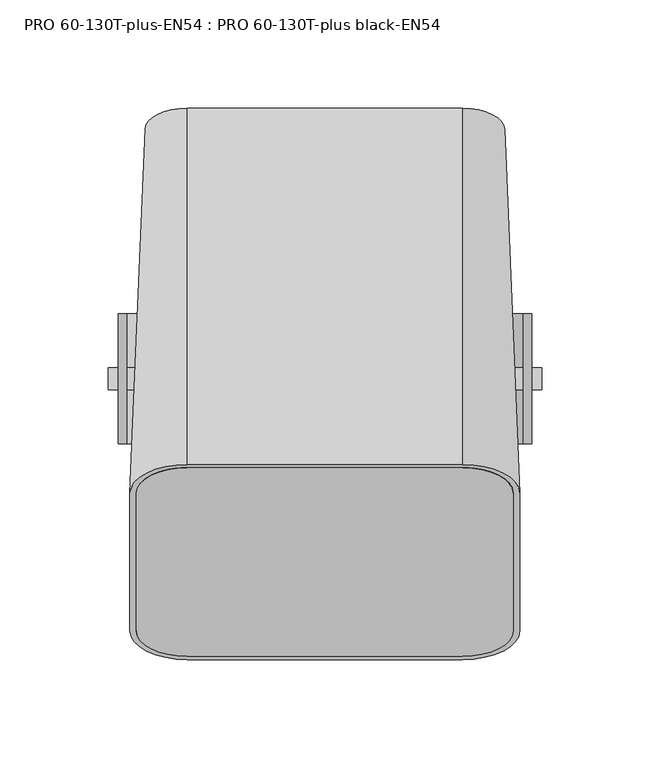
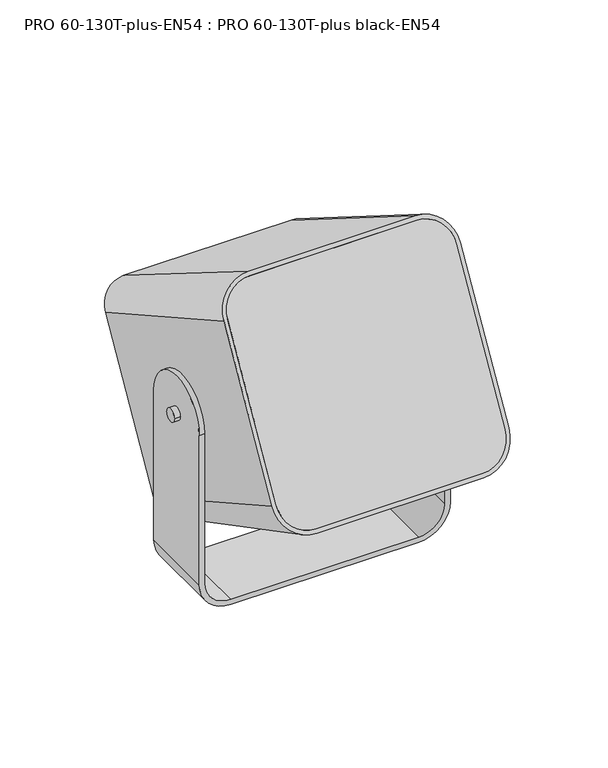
"""IFC4 building model written with IfcOpenShell, lengths in millimetres: proxy geometry, PRO 60-130T-plus-EN54 : PRO 60-130T-plus black-EN54."""

from ifc_helpers import new_model, si_unit, point, frame, frame_2d, origin, place, context, project, spatial, polyline, circle_curve, ellipse_curve, trimmed, segment, composite_curve, outline, extrude, source, transform, mapped, element, save
from ifc_brep_helpers import plane_surface, cylinder_surface, revolved_surface, advanced_brep


def pro_60_130t_plus_en54_pro_60_130t_plus_black_en54_bc86a0cb(model_context):
    return source(origin(), model_context, "Body", "SolidModel", [
        advanced_brep(
        [(-6.5506555, 64.9756664, 56.0416911), (-6.5506555, 61.6619579, 50.3021797), (-11.236947, 59.3188122, 46.2437322), (-17.864364, 59.3188122, 46.2437322), (-22.5506555, 61.6619579, 50.3021797), (-22.5506555, 64.9756664, 56.0416911), (-17.864364, 67.3188122, 60.1001386), (-11.236947, 67.3188122, 60.1001386), (-14.5506555, 66.3188122, 58.3680878), (-14.5506555, 60.3188122, 47.975783), (-6.5506555, 61.5115648, 58.0416911), (-11.236947, 63.8547106, 62.1001386), (-17.864364, 63.8547106, 62.1001386), (-22.5506555, 61.5115648, 58.0416911), (-22.5506555, 58.1978563, 52.3021797), (-17.864364, 55.8547106, 48.2437322), (-11.236947, 55.8547106, 48.2437322), (-6.5506555, 58.1978563, 52.3021797), (-14.5506555, 62.050863, 46.975783), (-14.5506555, 68.050863, 57.3680878), (-6.5506555, 74.1555357, 50.7416911), (-6.5506555, 70.8418272, 45.0021797), (-11.236947, 68.4986814, 40.9437322), (-17.864364, 68.4986814, 40.9437322), (-22.5506555, 70.8418272, 45.0021797), (-22.5506555, 74.1555357, 50.7416911), (-17.864364, 76.4986814, 54.8001386), (-11.236947, 76.4986814, 54.8001386), (-14.5506555, 75.9986814, 53.9341132), (-14.5506555, 68.9986814, 41.8097576), (-6.5506555, 66.7077172, 55.0416911), (-11.236947, 69.050863, 59.1001386), (-17.864364, 69.050863, 59.1001386), (-22.5506555, 66.7077172, 55.0416911), (-22.5506555, 63.3940087, 49.3021797), (-17.864364, 61.050863, 45.2437322), (-11.236947, 61.050863, 45.2437322), (-6.5506555, 63.3940087, 49.3021797), (-14.5506555, 70.2977196, 41.0597576), (-14.5506555, 77.2977196, 53.1841132), (-14.5506555, 78.7618212, 47.7200116), (-14.5506555, 75.7618212, 42.5238592), (-14.5506555, 77.2618212, 45.1219354)],
        [
            (0, 1),
            (1, 2),
            (2, 3),
            (3, 4),
            (4, 5),
            (5, 6),
            (6, 7),
            (7, 0),
            (8, 9, circle_curve(frame((-14.5506555, 63.3188122, 53.1719354), z_axis=(0.0, -0.8660254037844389, 0.4999999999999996), x_axis=(0.0, 0.4999999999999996, 0.8660254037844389)), 6.0)),
            (9, 8, circle_curve(frame((-14.5506555, 63.3188122, 53.1719354), z_axis=(0.0, -0.8660254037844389, 0.4999999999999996), x_axis=(0.0, 0.4999999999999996, 0.8660254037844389)), 6.0)),
            (10, 11),
            (11, 12),
            (12, 13),
            (13, 14),
            (14, 15),
            (15, 16),
            (16, 17),
            (17, 10),
            (18, 9),
            (8, 19),
            (19, 18, circle_curve(frame((-14.5506555, 65.050863, 52.1719354), z_axis=(0.0, -0.8660254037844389, 0.4999999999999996), x_axis=(0.0, 0.4999999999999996, 0.8660254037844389)), 6.0)),
            (18, 19, circle_curve(frame((-14.5506555, 65.050863, 52.1719354), z_axis=(0.0, -0.8660254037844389, 0.4999999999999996), x_axis=(0.0, 0.4999999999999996, 0.8660254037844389)), 6.0)),
            (20, 21),
            (21, 22),
            (22, 23),
            (23, 24),
            (24, 25),
            (25, 26),
            (26, 27),
            (27, 20),
            (28, 29, circle_curve(frame((-14.5506555, 72.4986814, 47.8719354), z_axis=(0.0, -0.8660254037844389, 0.4999999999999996), x_axis=(0.0, 0.4999999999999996, 0.8660254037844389)), 7.0)),
            (29, 28, circle_curve(frame((-14.5506555, 72.4986814, 47.8719354), z_axis=(0.0, -0.8660254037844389, 0.4999999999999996), x_axis=(0.0, 0.4999999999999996, 0.8660254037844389)), 7.0)),
            (30, 31),
            (31, 32),
            (32, 33),
            (33, 34),
            (34, 35),
            (35, 36),
            (36, 37),
            (37, 30),
            (38, 29),
            (28, 39),
            (39, 38, circle_curve(frame((-14.5506555, 73.7977196, 47.1219354), z_axis=(0.0, -0.8660254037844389, 0.4999999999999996), x_axis=(0.0, 0.4999999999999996, 0.8660254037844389)), 7.0)),
            (38, 39, circle_curve(frame((-14.5506555, 73.7977196, 47.1219354), z_axis=(0.0, -0.8660254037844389, 0.4999999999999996), x_axis=(0.0, 0.4999999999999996, 0.8660254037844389)), 7.0)),
            (40, 41, circle_curve(frame((-14.5506555, 77.2618212, 45.1219354), z_axis=(0.0, 0.8660254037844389, -0.4999999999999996), x_axis=(0.0, -0.4999999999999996, -0.8660254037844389)), 3.0)),
            (41, 42),
            (42, 40),
            (41, 40, circle_curve(frame((-14.5506555, 77.2618212, 45.1219354), z_axis=(0.0, 0.8660254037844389, -0.4999999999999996), x_axis=(0.0, -0.4999999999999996, -0.8660254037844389)), 3.0)),
            (40, 39, circle_curve(frame((-14.5506555, 75.2977196, 49.7200116), z_axis=(1.0, 0.0, 0.0), x_axis=(0.0, -0.4999999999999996, -0.8660254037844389)), 4.0)),
            (38, 41, circle_curve(frame((-14.5506555, 72.2977196, 44.5238592), z_axis=(1.0, 0.0, 0.0), x_axis=(0.0, 0.4999999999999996, 0.8660254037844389)), 4.0)),
            (20, 30),
            (37, 21),
            (36, 22),
            (35, 23),
            (34, 24),
            (33, 25),
            (32, 26),
            (31, 27),
            (0, 10),
            (17, 1),
            (16, 2),
            (15, 3),
            (14, 4),
            (13, 5),
            (12, 6),
            (11, 7),
        ],
        [
            plane_surface(frame((-6.5506555, 64.9756664, 56.0416911), z_axis=(0.0, 0.8660254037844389, -0.4999999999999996), x_axis=(0.0, -0.4999999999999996, -0.8660254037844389))),
            plane_surface(frame((-6.5506555, 61.5115648, 58.0416911), z_axis=(0.0, -0.8660254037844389, 0.4999999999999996), x_axis=(0.0, 0.4999999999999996, 0.8660254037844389))),
            cylinder_surface(frame((-14.5506555, 59.8547106, 55.1719354), z_axis=(0.0, 0.8660254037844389, -0.4999999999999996), x_axis=(0.0, 0.4999999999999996, 0.8660254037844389)), 6.0),
            plane_surface(frame((-6.5506555, 74.1555357, 50.7416911), z_axis=(0.0, 0.8660254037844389, -0.4999999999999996), x_axis=(0.0, -0.4999999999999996, -0.8660254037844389))),
            plane_surface(frame((-6.5506555, 66.7077172, 55.0416911), z_axis=(0.0, -0.8660254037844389, 0.4999999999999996), x_axis=(0.0, 0.4999999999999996, 0.8660254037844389))),
            cylinder_surface(frame((-14.5506555, 65.050863, 52.1719354), z_axis=(0.0, 0.8660254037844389, -0.4999999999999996), x_axis=(0.0, 0.4999999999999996, 0.8660254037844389)), 7.0),
            plane_surface(frame((-14.5506555, 77.2618212, 45.1219354), z_axis=(0.0, 0.8660254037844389, -0.4999999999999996), x_axis=(0.0, -0.4999999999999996, -0.8660254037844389))),
            revolved_surface(trimmed(ellipse_curve(frame((-14.5506555, 72.2977196, 44.5238592), z_axis=(-1.0, 0.0, 0.0), x_axis=(0.0, 0.4999999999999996, 0.8660254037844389)), 4.0, 4.0), [point((-14.5506555, 75.7618212, 42.5238592))], [point((-14.5506555, 70.2977196, 41.0597576))], True, "CARTESIAN"), (-14.5506555, 1970.1465392, -1047.7355661), (0.0, -0.8660254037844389, 0.4999999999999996)),
            plane_surface(frame((-6.5506555, 74.1555357, 50.7416911), z_axis=(1.0, 0.0, 0.0), x_axis=(0.0, -0.8660254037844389, 0.4999999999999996))),
            plane_surface(frame((-6.5506555, 70.8418272, 45.0021797), z_axis=(0.7071067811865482, -0.3535533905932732, -0.6123724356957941), x_axis=(0.0, -0.8660254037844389, 0.4999999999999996))),
            plane_surface(frame((-11.236947, 68.4986814, 40.9437322), z_axis=(0.0, -0.4999999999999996, -0.8660254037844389), x_axis=(0.0, -0.8660254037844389, 0.4999999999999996))),
            plane_surface(frame((-17.864364, 68.4986814, 40.9437322), z_axis=(-0.7071067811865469, -0.35355339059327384, -0.6123724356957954), x_axis=(0.0, -0.8660254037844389, 0.4999999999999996))),
            plane_surface(frame((-22.5506555, 70.8418272, 45.0021797), z_axis=(-1.0, 0.0, 0.0), x_axis=(0.0, -0.8660254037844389, 0.4999999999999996))),
            plane_surface(frame((-22.5506555, 74.1555357, 50.7416911), z_axis=(-0.7071067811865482, 0.3535533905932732, 0.6123724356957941), x_axis=(0.0, -0.8660254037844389, 0.4999999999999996))),
            plane_surface(frame((-17.864364, 76.4986814, 54.8001386), z_axis=(0.0, 0.4999999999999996, 0.8660254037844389), x_axis=(0.0, -0.8660254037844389, 0.4999999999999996))),
            plane_surface(frame((-11.236947, 76.4986814, 54.8001386), z_axis=(0.7071067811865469, 0.35355339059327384, 0.6123724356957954), x_axis=(0.0, -0.8660254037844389, 0.4999999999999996))),
            plane_surface(frame((-6.5506555, 64.9756664, 56.0416911), z_axis=(1.0, 0.0, 0.0), x_axis=(0.0, -0.8660254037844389, 0.4999999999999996))),
            plane_surface(frame((-6.5506555, 61.6619579, 50.3021797), z_axis=(0.7071067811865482, -0.35355339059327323, -0.6123724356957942), x_axis=(0.0, -0.8660254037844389, 0.4999999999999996))),
            plane_surface(frame((-11.236947, 59.3188122, 46.2437322), z_axis=(0.0, -0.4999999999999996, -0.8660254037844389), x_axis=(0.0, -0.8660254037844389, 0.4999999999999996))),
            plane_surface(frame((-17.864364, 59.3188122, 46.2437322), z_axis=(-0.7071067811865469, -0.3535533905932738, -0.6123724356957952), x_axis=(0.0, -0.8660254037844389, 0.4999999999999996))),
            plane_surface(frame((-22.5506555, 61.6619579, 50.3021797), z_axis=(-1.0, 0.0, 0.0), x_axis=(0.0, -0.8660254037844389, 0.4999999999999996))),
            plane_surface(frame((-22.5506555, 64.9756664, 56.0416911), z_axis=(-0.7071067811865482, 0.3535533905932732, 0.6123724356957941), x_axis=(0.0, -0.8660254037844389, 0.4999999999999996))),
            plane_surface(frame((-17.864364, 67.3188122, 60.1001386), z_axis=(0.0, 0.4999999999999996, 0.8660254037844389), x_axis=(0.0, -0.8660254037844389, 0.4999999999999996))),
            plane_surface(frame((-11.236947, 67.3188122, 60.1001386), z_axis=(0.707106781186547, 0.3535533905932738, 0.6123724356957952), x_axis=(0.0, -0.8660254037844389, 0.4999999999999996))),
        ],
        [
            (0, [[1, 2, 3, 4, 5, 6, 7, 8], [9, 10]]),
            (1, [[11, 12, 13, 14, 15, 16, 17, 18]]),
            (2, [[19, -9, 20, 21]]),
            (2, [[-19, 22, -20, -10]]),
            (3, [[23, 24, 25, 26, 27, 28, 29, 30], [31, 32]]),
            (4, [[33, 34, 35, 36, 37, 38, 39, 40], [-21, -22]]),
            (5, [[41, -31, 42, 43]]),
            (5, [[-41, 44, -42, -32]]),
            (6, [[45, 46, 47]]),
            (6, [[-46, 48, -47]]),
            (7, [[-45, 49, -44, 50]]),
            (7, [[-48, -50, -43, -49]]),
            (8, [[-23, 51, -40, 52]]),
            (9, [[-24, -52, -39, 53]]),
            (10, [[-25, -53, -38, 54]]),
            (11, [[-26, -54, -37, 55]]),
            (12, [[-27, -55, -36, 56]]),
            (13, [[-28, -56, -35, 57]]),
            (14, [[-29, -57, -34, 58]]),
            (15, [[-30, -58, -33, -51]]),
            (16, [[-1, 59, -18, 60]]),
            (17, [[-2, -60, -17, 61]]),
            (18, [[-3, -61, -16, 62]]),
            (19, [[-4, -62, -15, 63]]),
            (20, [[-5, -63, -14, 64]]),
            (21, [[-6, -64, -13, 65]]),
            (22, [[-7, -65, -12, 66]]),
            (23, [[-8, -66, -11, -59]]),
        ],
    ),
        extrude(outline(composite_curve([segment(trimmed(circle_curve(frame_2d((0.0, -23.5)), 23.5), [point((0.0, 0.0))], [point((23.5, -23.5))], False, "CARTESIAN"), True, "CONTINUOUS"), segment(polyline([(23.5, -23.5), (23.5, -150.5)]), True, "CONTINUOUS"), segment(trimmed(circle_curve(frame_2d((0.0, -150.5)), 23.5), [point((23.5, -150.5))], [point((0.0, -174.0))], False, "CARTESIAN"), True, "CONTINUOUS"), segment(polyline([(0.0, -174.0), (-127.0, -174.0)]), True, "CONTINUOUS"), segment(trimmed(circle_curve(frame_2d((-127.0, -150.5)), 23.5), [point((-127.0, -174.0))], [point((-150.5, -150.5))], False, "CARTESIAN"), True, "CONTINUOUS"), segment(polyline([(-150.5, -150.5), (-150.5, -23.5)]), True, "CONTINUOUS"), segment(trimmed(circle_curve(frame_2d((-127.0, -23.5)), 23.5), [point((-150.5, -23.5))], [point((-127.0, 0.0))], False, "CARTESIAN"), True, "CONTINUOUS"), segment(polyline([(-127.0, 0.0), (0.0, 0.0)]), True, "CONTINUOUS")], self_intersect=False)), frame((87.0, -115.5379578, 137.3824259), z_axis=(0.0, -0.8660254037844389, 0.4999999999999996), x_axis=(0.0, -0.4999999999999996, -0.8660254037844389)), (0.0, 0.0, 1.0), 1.0),
        extrude(outline(composite_curve([segment(trimmed(circle_curve(frame_2d((0.0, -23.5)), 23.5), [point((0.0, 0.0))], [point((23.5, -23.5))], False, "CARTESIAN"), True, "CONTINUOUS"), segment(polyline([(23.5, -23.5), (23.5, -150.5)]), True, "CONTINUOUS"), segment(trimmed(circle_curve(frame_2d((0.0, -150.5)), 23.5), [point((23.5, -150.5))], [point((0.0, -174.0))], False, "CARTESIAN"), True, "CONTINUOUS"), segment(polyline([(0.0, -174.0), (-127.0, -174.0)]), True, "CONTINUOUS"), segment(trimmed(circle_curve(frame_2d((-127.0, -150.5)), 23.5), [point((-127.0, -174.0))], [point((-150.5, -150.5))], False, "CARTESIAN"), True, "CONTINUOUS"), segment(polyline([(-150.5, -150.5), (-150.5, -23.5)]), True, "CONTINUOUS"), segment(trimmed(circle_curve(frame_2d((-127.0, -23.5)), 23.5), [point((-150.5, -23.5))], [point((-127.0, 0.0))], False, "CARTESIAN"), True, "CONTINUOUS"), segment(polyline([(-127.0, 0.0), (0.0, 0.0)]), True, "CONTINUOUS")], self_intersect=False)), frame((87.0, -112.9398816, 135.8824259), z_axis=(0.0, -0.8660254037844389, 0.4999999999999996), x_axis=(0.0, -0.4999999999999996, -0.8660254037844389)), (0.0, 0.0, 1.0), 1.0),
        advanced_brep(
        [(63.5, 124.8547301, 167.7552717), (83.0, 115.1047301, 150.8677764), (83.0, 51.6047301, 40.8825501), (63.5, 41.8547301, 23.9950547), (-63.5, 41.8547301, 23.9950547), (-83.0, 51.6047301, 40.8825501), (-83.0, 115.1047301, 150.8677764), (-63.5, 124.8547301, 167.7552717), (63.5, -39.6539832, 270.8173254), (-63.5, -39.6539832, 270.8173254), (-90.0, -52.9039832, 247.8676522), (-90.0, -116.4039832, 137.8824259), (-63.5, -129.6539832, 114.9327527), (63.5, -129.6539832, 114.9327527), (90.0, -116.4039832, 137.8824259), (90.0, -52.9039832, 247.8676522), (87.0, -52.9039832, 247.8676522), (87.0, -116.4039832, 137.8824259), (63.5, -128.1539832, 117.5308289), (-63.5, -128.1539832, 117.5308289), (-87.0, -116.4039832, 137.8824259), (-87.0, -52.9039832, 247.8676522), (-63.5, -41.1539832, 268.2192492), (63.5, -41.1539832, 268.2192492), (87.0, -49.4398816, 245.8676522), (63.5, -37.6898816, 266.2192492), (-63.5, -37.6898816, 266.2192492), (-87.0, -49.4398816, 245.8676522), (-87.0, -112.9398816, 135.8824259), (-63.5, -124.6898816, 115.5308289), (63.5, -124.6898816, 115.5308289), (87.0, -112.9398816, 135.8824259)],
        [
            (0, 1, circle_curve(frame((63.5, 115.1047301, 150.8677764), z_axis=(0.0, 0.8660254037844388, -0.49999999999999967), x_axis=(0.0, 0.4999999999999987, 0.8660254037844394)), 19.5)),
            (1, 2),
            (2, 3, circle_curve(frame((63.5, 51.6047301, 40.8825501), z_axis=(0.0, 0.866025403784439, -0.49999999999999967), x_axis=(1.0, 0.0, 0.0)), 19.5)),
            (3, 4),
            (4, 5, circle_curve(frame((-63.5, 51.6047301, 40.8825501), z_axis=(0.0, 0.866025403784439, -0.49999999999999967), x_axis=(0.0, -0.5000000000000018, -0.8660254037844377)), 19.5)),
            (5, 6),
            (6, 7, circle_curve(frame((-63.5, 115.1047301, 150.8677764), z_axis=(0.0, 0.8660254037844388, -0.49999999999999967), x_axis=(-1.0, 0.0, 0.0)), 19.5)),
            (7, 0),
            (8, 9),
            (9, 10, circle_curve(frame((-63.5, -52.9039832, 247.8676522), z_axis=(0.0, -0.8660254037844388, 0.49999999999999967), x_axis=(-1.0, 0.0, 0.0)), 26.5)),
            (10, 11),
            (11, 12, circle_curve(frame((-63.5, -116.4039832, 137.8824259), z_axis=(0.0, -0.866025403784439, 0.49999999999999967), x_axis=(0.0, -0.5000000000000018, -0.8660254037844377)), 26.5)),
            (12, 13),
            (13, 14, circle_curve(frame((63.5, -116.4039832, 137.8824259), z_axis=(0.0, -0.866025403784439, 0.49999999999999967), x_axis=(1.0, 0.0, 0.0)), 26.5)),
            (14, 15),
            (15, 8, circle_curve(frame((63.5, -52.9039832, 247.8676522), z_axis=(0.0, -0.8660254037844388, 0.49999999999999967), x_axis=(0.0, 0.4999999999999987, 0.8660254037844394)), 26.5)),
            (16, 17),
            (17, 18, circle_curve(frame((63.5, -116.4039832, 137.8824259), z_axis=(0.0, 0.8660254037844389, -0.4999999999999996), x_axis=(1.0, 0.0, 0.0)), 23.5)),
            (18, 19),
            (19, 20, circle_curve(frame((-63.5, -116.4039832, 137.8824259), z_axis=(0.0, 0.8660254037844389, -0.4999999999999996), x_axis=(0.0, -0.4999999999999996, -0.8660254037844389)), 23.5)),
            (20, 21),
            (21, 22, circle_curve(frame((-63.5, -52.9039832, 247.8676522), z_axis=(0.0, 0.8660254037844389, -0.4999999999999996), x_axis=(-1.0, 0.0, 0.0)), 23.5)),
            (22, 23),
            (23, 16, circle_curve(frame((63.5, -52.9039832, 247.8676522), z_axis=(0.0, 0.8660254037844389, -0.4999999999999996), x_axis=(0.0, 0.4999999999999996, 0.8660254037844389)), 23.5)),
            (7, 9),
            (8, 0),
            (6, 10),
            (5, 11),
            (4, 12),
            (3, 13),
            (2, 14),
            (1, 15),
            (24, 25, circle_curve(frame((63.5, -49.4398816, 245.8676522), z_axis=(0.0, -0.8660254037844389, 0.4999999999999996), x_axis=(0.0, 0.4999999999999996, 0.8660254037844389)), 23.5)),
            (25, 26),
            (26, 27, circle_curve(frame((-63.5, -49.4398816, 245.8676522), z_axis=(0.0, -0.8660254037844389, 0.4999999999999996), x_axis=(-1.0, 0.0, 0.0)), 23.5)),
            (27, 28),
            (28, 29, circle_curve(frame((-63.5, -112.9398816, 135.8824259), z_axis=(0.0, -0.8660254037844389, 0.4999999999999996), x_axis=(0.0, -0.4999999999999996, -0.8660254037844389)), 23.5)),
            (29, 30),
            (30, 31, circle_curve(frame((63.5, -112.9398816, 135.8824259), z_axis=(0.0, -0.8660254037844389, 0.4999999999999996), x_axis=(1.0, 0.0, 0.0)), 23.5)),
            (31, 24),
            (31, 17),
            (16, 24),
            (30, 18),
            (29, 19),
            (28, 20),
            (27, 21),
            (26, 22),
            (25, 23),
        ],
        [
            plane_surface(frame((0.0, 83.3547301, 95.8751632), z_axis=(0.0, 0.8660254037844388, -0.4999999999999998), x_axis=(0.0, -0.4999999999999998, -0.8660254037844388))),
            plane_surface(frame((0.0, -84.6539832, 192.8750391), z_axis=(0.0, -0.8660254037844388, 0.4999999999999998), x_axis=(0.0, -0.4999999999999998, -0.8660254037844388))),
            plane_surface(frame((0.0, -39.6539832, 270.8173254), z_axis=(0.0, 0.530902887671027, 0.8474326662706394), x_axis=(1.0, 0.0, 0.0))),
            revolved_surface(polyline([(-82.99999999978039, 115.1047301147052, 150.86777635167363), (-90.0, -52.90398319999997, 247.8676522)]), (-63.5, 583.1290029, -119.3461635), (0.0, -0.8660254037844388, 0.49999999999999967)),
            plane_surface(frame((-90.0, -84.6539832, 192.8750391), z_axis=(-0.9993496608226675, 0.03122805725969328, -0.01802952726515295), x_axis=(0.0, 0.4999999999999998, 0.8660254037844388))),
            revolved_surface(polyline([(-63.5, 41.85473009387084, 23.995054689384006), (-63.5, -129.65398319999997, 114.93275269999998)]), (-63.5, 519.6290029, -229.3313898), (0.0, -0.8660254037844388, 0.49999999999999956)),
            plane_surface(frame((0.0, -129.6539832, 114.9327527), z_axis=(0.0, -0.4684467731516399, -0.8834917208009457), x_axis=(-1.0, 0.0, 0.0))),
            revolved_surface(polyline([(83.00000000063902, 51.604730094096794, 40.8825500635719), (90.00000000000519, -116.40398320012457, 137.8824259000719)]), (63.5, 519.6290029, -229.3313898), (0.0, -0.8660254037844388, 0.49999999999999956)),
            plane_surface(frame((90.0, -84.6539832, 192.8750391), z_axis=(0.9993496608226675, 0.031228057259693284, -0.018029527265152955), x_axis=(0.0, -0.4999999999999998, -0.8660254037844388))),
            revolved_surface(polyline([(63.5, 124.85473011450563, 167.7552717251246), (63.5, -39.65398320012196, 270.8173254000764)]), (63.5, 583.1290029, -119.3461635), (0.0, -0.8660254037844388, 0.49999999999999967)),
            plane_surface(frame((87.0, -112.9398816, 135.8824259), z_axis=(0.0, -0.8660254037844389, 0.4999999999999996), x_axis=(0.0, -0.4999999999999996, -0.8660254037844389))),
            plane_surface(frame((87.0, -49.4398816, 245.8676522), z_axis=(-1.0, 0.0, 0.0), x_axis=(0.0, -0.8660254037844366, 0.5000000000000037))),
            revolved_surface(polyline([(87.0, -112.939881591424, 135.88242590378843), (87.0, -116.4039832, 137.8824259)]), (63.5, -116.4039832, 137.8824259), (0.0, 0.8660254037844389, -0.4999999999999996)),
            plane_surface(frame((63.5, -124.6898816, 115.5308289), z_axis=(0.0, 0.49999999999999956, 0.8660254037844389), x_axis=(0.0, -0.8660254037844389, 0.49999999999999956))),
            revolved_surface(polyline([(-63.5, -124.689881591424, 115.5308289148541), (-63.5, -128.1539832, 117.53082891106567)]), (-63.5, -116.4039832, 137.8824259), (0.0, 0.8660254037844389, -0.4999999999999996)),
            plane_surface(frame((-87.0, -112.9398816, 135.8824259), z_axis=(1.0, 0.0, 0.0), x_axis=(0.0, -0.8660254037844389, 0.49999999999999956))),
            revolved_surface(polyline([(-87.0, -49.43988159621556, 245.86765220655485), (-87.0, -52.903983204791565, 247.8676522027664)]), (-63.5, -52.9039832, 247.8676522), (0.0, 0.8660254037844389, -0.4999999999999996)),
            plane_surface(frame((-63.5, -37.6898816, 266.2192492), z_axis=(0.0, -0.4999999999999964, -0.8660254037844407), x_axis=(0.0, -0.8660254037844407, 0.4999999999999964))),
            revolved_surface(polyline([(63.5, -37.689881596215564, 266.21924919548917), (63.5, -41.15398320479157, 268.2192491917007)]), (63.5, -52.9039832, 247.8676522), (0.0, 0.8660254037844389, -0.4999999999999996)),
        ],
        [
            (0, [[1, 2, 3, 4, 5, 6, 7, 8]]),
            (1, [[9, 10, 11, 12, 13, 14, 15, 16], [17, 18, 19, 20, 21, 22, 23, 24]]),
            (2, [[-8, 25, -9, 26]]),
            (3, [[-7, 27, -10, -25]]),
            (4, [[-6, 28, -11, -27]]),
            (5, [[-5, 29, -12, -28]]),
            (6, [[-4, 30, -13, -29]]),
            (7, [[-3, 31, -14, -30]]),
            (8, [[-2, 32, -15, -31]]),
            (9, [[-1, -26, -16, -32]]),
            (10, [[33, 34, 35, 36, 37, 38, 39, 40]]),
            (11, [[-40, 41, -17, 42]]),
            (12, [[-39, 43, -18, -41]]),
            (13, [[-38, 44, -19, -43]]),
            (14, [[-37, 45, -20, -44]]),
            (15, [[-36, 46, -21, -45]]),
            (16, [[-35, 47, -22, -46]]),
            (17, [[-34, 48, -23, -47]]),
            (18, [[-33, -42, -24, -48]]),
        ],
    ),
        extrude(outline(composite_curve([segment(trimmed(circle_curve(frame_2d((0.0, 144.0000391)), 5.0), [point((-5.0, 144.0000391))], [point((5.0, 144.0000391))], False, "CARTESIAN"), True, "CONTINUOUS"), segment(trimmed(circle_curve(frame_2d((0.0, 144.0000391)), 5.0), [point((5.0, 144.0000391))], [point((-5.0, 144.0000391))], False, "CARTESIAN"), True, "CONTINUOUS")], self_intersect=False)), frame((-100.0, 0.0, 0.0), z_axis=(1.0, 0.0, 0.0), x_axis=(0.0, 1.0, 0.0)), (0.0, 0.0, 1.0), 200.0),
        advanced_brep(
        [(-71.5, -30.0, 0.0), (71.5000503, -30.0, 0.0), (95.4998435, -30.0, 23.9997932), (95.4998435, -30.0, 144.0000391), (91.4998435, -30.0, 144.0000391), (91.4998435, -30.0, 23.9997932), (71.5000503, -30.0, 4.0), (-71.5, -30.0, 4.0), (-91.5, -30.0, 24.0), (-91.5, -30.0, 144.0000391), (-95.5, -30.0, 144.0000391), (-95.5, -30.0, 24.0), (-71.5, 30.0, 0.0), (-95.5, 30.0, 24.0), (-95.5, 30.0, 144.0000391), (-91.5, 30.0, 144.0000391), (-91.5, 30.0, 24.0), (-71.5, 30.0, 4.0), (71.5000503, 30.0, 4.0), (91.4998435, 30.0, 23.9997932), (91.4998435, 30.0, 144.0000391), (95.4998435, 30.0, 144.0000391), (95.4998435, 30.0, 23.9997932), (71.5000503, 30.0, 0.0), (95.4998435, 0.0, 174.0000391), (91.4998435, 0.0, 174.0000391), (-91.5, 0.0, 174.0000391), (-95.5, 0.0, 174.0000391)],
        [
            (0, 1),
            (1, 2, circle_curve(frame((71.5000503, -30.0, 23.9997932), z_axis=(0.0, -1.0, 0.0), x_axis=(1.0, 0.0, 0.0)), 23.9997932)),
            (2, 3),
            (3, 4),
            (4, 5),
            (5, 6, circle_curve(frame((71.5000503, -30.0, 23.9997932), z_axis=(0.0, 1.0, 0.0), x_axis=(1.0, 0.0, 0.0)), 19.9997932)),
            (6, 7),
            (7, 8, circle_curve(frame((-71.5, -30.0, 24.0), z_axis=(0.0, 1.0, 0.0), x_axis=(1.0, 0.0, 0.0)), 20.0)),
            (8, 9),
            (9, 10),
            (10, 11),
            (11, 0, circle_curve(frame((-71.5, -30.0, 24.0), z_axis=(0.0, -1.0, 0.0), x_axis=(1.0, 0.0, 0.0)), 24.0)),
            (12, 13, circle_curve(frame((-71.5, 30.0, 24.0), z_axis=(0.0, 1.0, 0.0), x_axis=(1.0, 0.0, 0.0)), 24.0)),
            (13, 14),
            (14, 15),
            (15, 16),
            (16, 17, circle_curve(frame((-71.5, 30.0, 24.0), z_axis=(0.0, -1.0, 0.0), x_axis=(1.0, 0.0, 0.0)), 20.0)),
            (17, 18),
            (18, 19, circle_curve(frame((71.5000503, 30.0, 23.9997932), z_axis=(0.0, -1.0, 0.0), x_axis=(1.0, 0.0, 0.0)), 19.9997932)),
            (19, 20),
            (20, 21),
            (21, 22),
            (22, 23, circle_curve(frame((71.5000503, 30.0, 23.9997932), z_axis=(0.0, 1.0, 0.0), x_axis=(1.0, 0.0, 0.0)), 23.9997932)),
            (23, 12),
            (0, 12),
            (23, 1),
            (22, 2),
            (21, 24, circle_curve(frame((95.4998435, 0.0, 144.0000391), z_axis=(1.0, 0.0, 0.0), x_axis=(0.0, 1.0, 0.0)), 30.0)),
            (24, 3, circle_curve(frame((95.4998435, 0.0, 144.0000391), z_axis=(1.0, 0.0, 0.0), x_axis=(0.0, 1.0, 0.0)), 30.0)),
            (19, 5),
            (4, 25, circle_curve(frame((91.4998435, 0.0, 144.0000391), z_axis=(-1.0, 0.0, 0.0), x_axis=(0.0, 1.0, 0.0)), 30.0)),
            (25, 20, circle_curve(frame((91.4998435, 0.0, 144.0000391), z_axis=(-1.0, 0.0, 0.0), x_axis=(0.0, 1.0, 0.0)), 30.0)),
            (18, 6),
            (17, 7),
            (16, 8),
            (15, 26, circle_curve(frame((-91.5, 0.0, 144.0000391), z_axis=(1.0, 0.0, 0.0), x_axis=(0.0, 1.0, 0.0)), 30.0)),
            (26, 9, circle_curve(frame((-91.5, 0.0, 144.0000391), z_axis=(1.0, 0.0, 0.0), x_axis=(0.0, 1.0, 0.0)), 30.0)),
            (13, 11),
            (10, 27, circle_curve(frame((-95.5, 0.0, 144.0000391), z_axis=(-1.0, 0.0, 0.0), x_axis=(0.0, 1.0, 0.0)), 30.0)),
            (27, 14, circle_curve(frame((-95.5, 0.0, 144.0000391), z_axis=(-1.0, 0.0, 0.0), x_axis=(0.0, 1.0, 0.0)), 30.0)),
        ],
        [
            plane_surface(frame((71.5000503, -30.0, 0.0), z_axis=(0.0, -1.0, 0.0), x_axis=(1.0, 0.0, 0.0))),
            plane_surface(frame((71.5000503, 30.0, 0.0), z_axis=(0.0, 1.0, 0.0), x_axis=(-1.0, 0.0, 0.0))),
            plane_surface(frame((-71.5, -30.0, 0.0), z_axis=(0.0, 0.0, -1.0), x_axis=(0.0, 1.0, 0.0))),
            cylinder_surface(frame((71.5000503, 30.0, 23.9997932), z_axis=(0.0, -1.0, 0.0), x_axis=(1.0, 0.0, 0.0)), 23.9997932),
            plane_surface(frame((95.4998435, -30.0, 23.9997932), z_axis=(1.0, 0.0, 0.0), x_axis=(0.0, 1.0, 0.0))),
            plane_surface(frame((91.4998435, -30.0, 174.0000391), z_axis=(-1.0, 0.0, 0.0), x_axis=(0.0, 1.0, 0.0))),
            revolved_surface(polyline([(91.4998435, 30.0, 23.9997932), (91.4998435, -30.0, 23.9997932)]), (71.5000503, 30.0, 23.9997932), (0.0, 1.0, 0.0)),
            plane_surface(frame((71.5000503, -30.0, 4.0), z_axis=(0.0, 0.0, 1.0), x_axis=(0.0, 1.0, 0.0))),
            revolved_surface(polyline([(-51.5, 30.0, 24.0), (-51.5, -30.0, 24.0)]), (-71.5, 30.0, 24.0), (0.0, 1.0, 0.0)),
            plane_surface(frame((-91.5, -30.0, 24.0), z_axis=(1.0, 0.0, 0.0), x_axis=(0.0, 1.0, 0.0))),
            plane_surface(frame((-95.5, -30.0, 174.0000391), z_axis=(-1.0, 0.0, 0.0), x_axis=(0.0, 1.0, 0.0))),
            cylinder_surface(frame((-71.5, 30.0, 24.0), z_axis=(0.0, -1.0, 0.0), x_axis=(1.0, 0.0, 0.0)), 24.0),
            cylinder_surface(frame((-100.0, 0.0, 144.0000391), z_axis=(-1.0, 0.0, 0.0), x_axis=(0.0, 1.0, 0.0)), 30.0),
        ],
        [
            (0, [[1, 2, 3, 4, 5, 6, 7, 8, 9, 10, 11, 12]]),
            (1, [[13, 14, 15, 16, 17, 18, 19, 20, 21, 22, 23, 24]]),
            (2, [[-1, 25, -24, 26]]),
            (3, [[-2, -26, -23, 27]]),
            (4, [[-27, -22, 28, 29, -3]]),
            (5, [[30, -5, 31, 32, -20]]),
            (6, [[-6, -30, -19, 33]]),
            (7, [[-7, -33, -18, 34]]),
            (8, [[-8, -34, -17, 35]]),
            (9, [[-35, -16, 36, 37, -9]]),
            (10, [[38, -11, 39, 40, -14]]),
            (11, [[-12, -38, -13, -25]]),
            (12, [[-4, -29, -28, -21, -32, -31]]),
            (12, [[-10, -37, -36, -15, -40, -39]]),
        ],
    ),
    ])


if __name__ == "__main__":
    model = new_model("IFC4")
    model_context = context("Model", 3, world=origin())
    ifc_project = project(units=[si_unit("LENGTHUNIT", "METRE", prefix="MILLI")], contexts=[model_context])
    site = spatial("IfcSite", under=ifc_project)
    building = spatial("IfcBuilding", under=site)
    placement = place(None, origin())
    pro_60_130t_plus_en54_pro_60_130t_plus_black_en54_shape = pro_60_130t_plus_en54_pro_60_130t_plus_black_en54_bc86a0cb(model_context)
    element("IfcBuildingElementProxy", 1, Name="PRO 60-130T-plus-EN54 : PRO 60-130T-plus black-EN54", ObjectType="PRO 60-130T-plus-EN54 : PRO 60-130T-plus black-EN54", at=placement, inside=building, context=model_context, shape_type="MappedRepresentation", body=[
        mapped(pro_60_130t_plus_en54_pro_60_130t_plus_black_en54_shape, transform((0.0, 0.0, 0.0), x_axis=(1.0, 0.0, 0.0), y_axis=(0.0, 1.0, 0.0), z_axis=(0.0, 0.0, 1.0))),
    ])
    save(model, "model.ifc")
